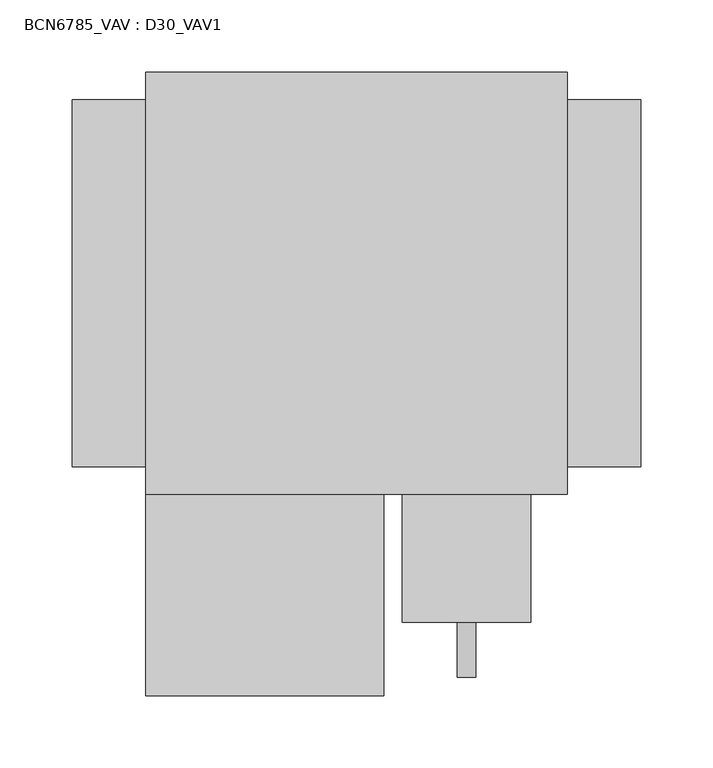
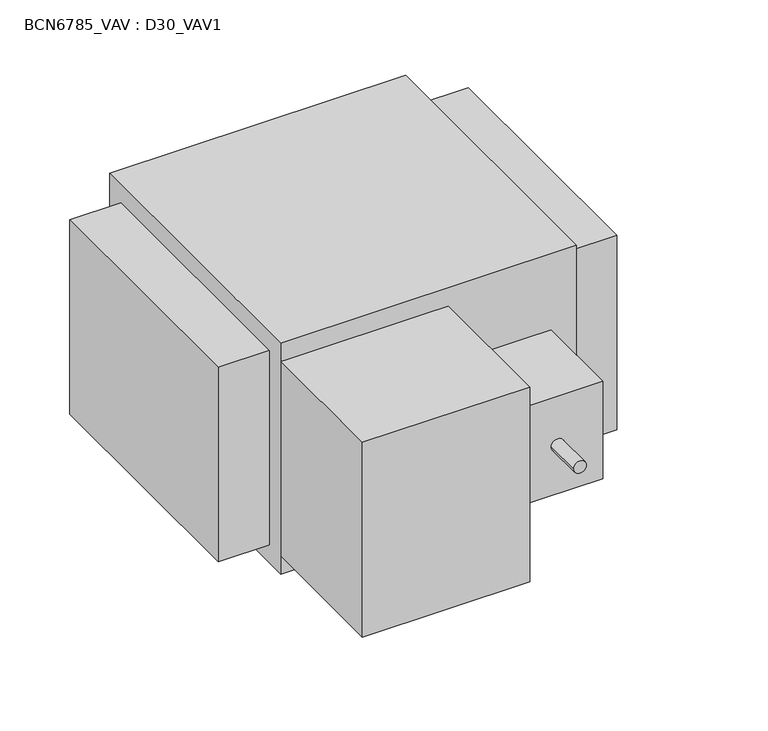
"""IFC4 building model written with IfcOpenShell, lengths in millimetres: proxy geometry, BCN6785_VAV : D30_VAV1."""

from ifc_helpers import new_model, si_unit, frame, origin, origin_with_axes, place, context, project, spatial, polyline, circle_curve, outline, extrude, faceted_brep, source, transform, mapped, element, save
from ifc_brep_helpers import plane_surface, cylinder_surface, advanced_brep


def bcn6785_vav_d30_vav1_8c327968(model_context):
    return source(origin(), model_context, "Body", "SolidModel", [
        extrude(outline(polyline([(292.1, 146.05), (292.1, -146.05), (0.0, -146.05), (0.0, 146.05), (292.1, 146.05)])), origin_with_axes(), (0.0, 0.0, 1.0), 241.3),
        extrude(outline(polyline([(165.1, -285.75), (0.0, -285.75), (0.0, -146.05), (165.1, -146.05), (165.1, -285.75)])), frame((0.0, 0.0, 19.05), z_axis=(0.0, 0.0, 1.0), x_axis=(1.0, 0.0, 0.0)), (0.0, 0.0, 1.0), 203.2),
        advanced_brep(
        [(266.7, -234.95, 161.925), (177.8, -234.95, 161.925), (177.8, -234.95, 60.325), (266.7, -234.95, 60.325), (228.6, -234.95, 111.125), (215.9, -234.95, 111.125), (266.7, -146.05, 161.925), (266.7, -146.05, 60.325), (177.8, -146.05, 60.325), (177.8, -146.05, 161.925), (215.9, -273.05, 111.125), (228.6, -273.05, 111.125)],
        [
            (0, 1),
            (1, 2),
            (2, 3),
            (3, 0),
            (4, 5, circle_curve(frame((222.25, -234.95, 111.125), z_axis=(0.0, 1.0, 0.0), x_axis=(1.0, 0.0, 0.0)), 6.35)),
            (5, 4, circle_curve(frame((222.25, -234.95, 111.125), z_axis=(0.0, 1.0, 0.0), x_axis=(1.0, 0.0, 0.0)), 6.35)),
            (6, 7),
            (7, 8),
            (8, 9),
            (9, 6),
            (0, 6),
            (9, 1),
            (8, 2),
            (7, 3),
            (10, 11, circle_curve(frame((222.25, -273.05, 111.125), z_axis=(0.0, -1.0, 0.0), x_axis=(1.0, 0.0, 0.0)), 6.35)),
            (11, 10, circle_curve(frame((222.25, -273.05, 111.125), z_axis=(0.0, -1.0, 0.0), x_axis=(1.0, 0.0, 0.0)), 6.35)),
            (10, 5),
            (4, 11),
        ],
        [
            plane_surface(frame((177.8, -234.95, 161.925), z_axis=(0.0, -1.0, 0.0), x_axis=(-1.0, 0.0, 0.0))),
            plane_surface(frame((177.8, -146.05, 161.925), z_axis=(0.0, 1.0, 0.0), x_axis=(1.0, 0.0, 0.0))),
            plane_surface(frame((266.7, -234.95, 161.925), z_axis=(0.0, 0.0, 1.0), x_axis=(0.0, 1.0, 0.0))),
            plane_surface(frame((177.8, -234.95, 161.925), z_axis=(-1.0, 0.0, 0.0), x_axis=(0.0, 1.0, 0.0))),
            plane_surface(frame((177.8, -234.95, 60.325), z_axis=(0.0, 0.0, -1.0), x_axis=(0.0, 1.0, 0.0))),
            plane_surface(frame((266.7, -234.95, 60.325), z_axis=(1.0, 0.0, 0.0), x_axis=(0.0, 1.0, 0.0))),
            plane_surface(frame((228.6, -273.05, 111.125), z_axis=(0.0, -1.0, 0.0), x_axis=(0.0, 0.0, 1.0))),
            cylinder_surface(frame((222.25, -146.05, 111.125), z_axis=(0.0, -1.0, 0.0), x_axis=(1.0, 0.0, 0.0)), 6.35),
        ],
        [
            (0, [[1, 2, 3, 4], [5, 6]]),
            (1, [[7, 8, 9, 10]]),
            (2, [[-1, 11, -10, 12]]),
            (3, [[-2, -12, -9, 13]]),
            (4, [[-3, -13, -8, 14]]),
            (5, [[-4, -14, -7, -11]]),
            (6, [[15, 16]]),
            (7, [[-15, 17, -5, 18]]),
            (7, [[-16, -18, -6, -17]]),
        ],
    ),
        faceted_brep([(342.9, 127.0, 222.25), (342.9, -127.0, 222.25), (342.9, -127.0, 19.05), (342.9, 127.0, 19.05), (292.1, 127.0, 222.25), (292.1, 127.0, 19.05), (292.1, -127.0, 19.05), (292.1, -127.0, 222.25)], [[[0, 1, 2, 3]], [[4, 5, 6, 7]], [[1, 0, 4, 7]], [[2, 1, 7, 6]], [[3, 2, 6, 5]], [[0, 3, 5, 4]]]),
        extrude(outline(polyline([(-50.8, -127.0), (-50.8, 127.0), (0.0, 127.0), (0.0, -127.0), (-50.8, -127.0)])), frame((0.0, 0.0, 19.05), z_axis=(0.0, 0.0, 1.0), x_axis=(1.0, 0.0, 0.0)), (0.0, 0.0, 1.0), 203.2),
    ])


if __name__ == "__main__":
    model = new_model("IFC4")
    model_context = context("Model", 3, world=origin())
    ifc_project = project(units=[si_unit("LENGTHUNIT", "METRE", prefix="MILLI")], contexts=[model_context])
    site = spatial("IfcSite", under=ifc_project)
    building = spatial("IfcBuilding", under=site)
    placement = place(None, origin())
    bcn6785_vav_d30_vav1_shape = bcn6785_vav_d30_vav1_8c327968(model_context)
    element("IfcBuildingElementProxy", 1, Name="BCN6785_VAV : D30_VAV1", ObjectType="BCN6785_VAV : D30_VAV1", at=placement, inside=building, context=model_context, shape_type="MappedRepresentation", body=[
        mapped(bcn6785_vav_d30_vav1_shape, transform((0.0, 0.0, 0.0), x_axis=(1.0, 0.0, 0.0), y_axis=(0.0, 1.0, 0.0), z_axis=(0.0, 0.0, 1.0))),
    ])
    save(model, "model.ifc")
